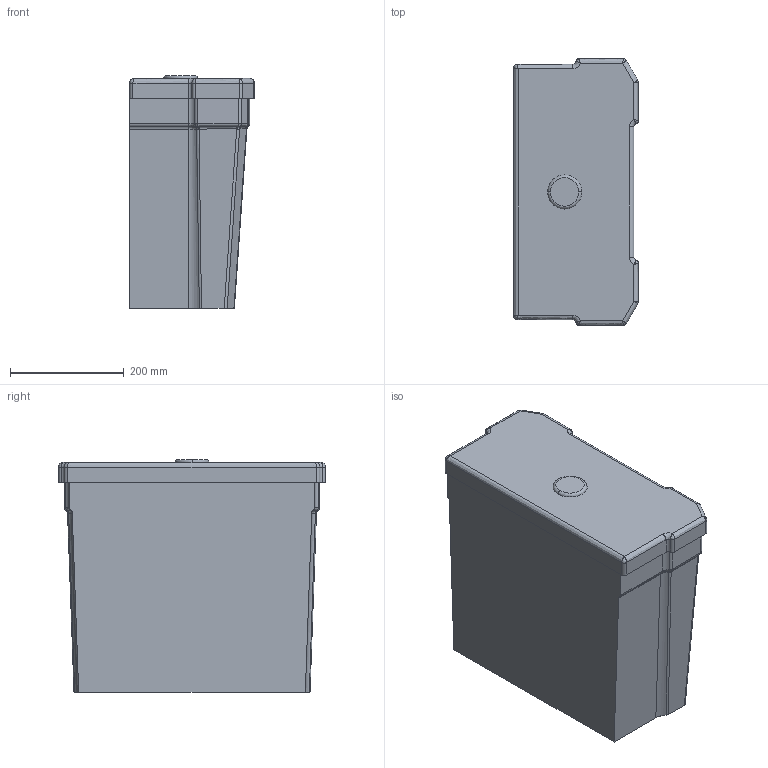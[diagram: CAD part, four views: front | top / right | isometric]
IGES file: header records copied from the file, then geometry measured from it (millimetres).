
Start section: START RECORD GO HERE.
Global section: file name: 8412_Cassetta alta Ethos.igs; native system: DASSAULT SYSTEMES CATIA V5 R19 - www.3ds.com; preprocessor: CATIA Version 5 Release 19 SP 5 ; author: gioge; organization: LAPTOP-G94B6G74; date: 20200630.144900; units: millimetre
Bounding box: 220 x 470 x 410 mm (x, y, z)
Surface area: 862903.3 mm2 (no closed solid volume)
Topology: 0 solids, 0 shells, 159 faces, 738 edges, 728 vertices
Faces by surface type: bspline 94, plane 35, revolution 30
